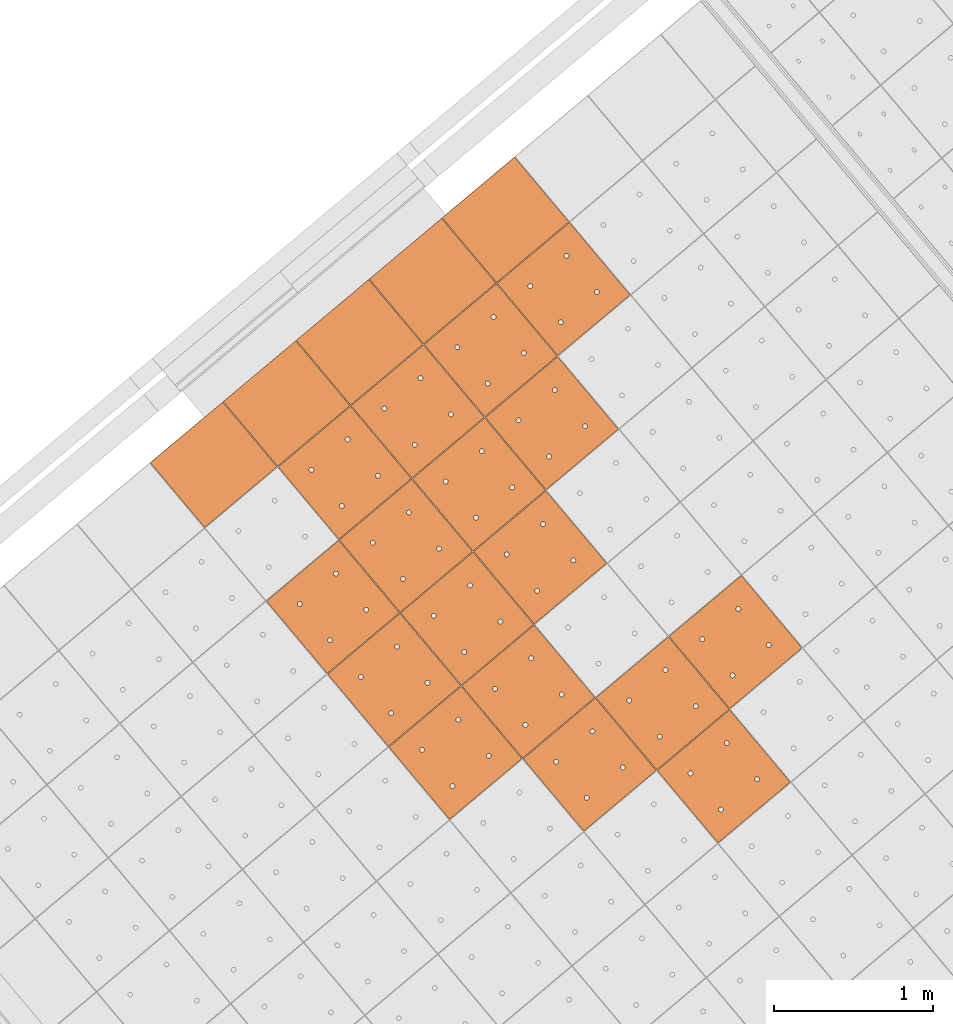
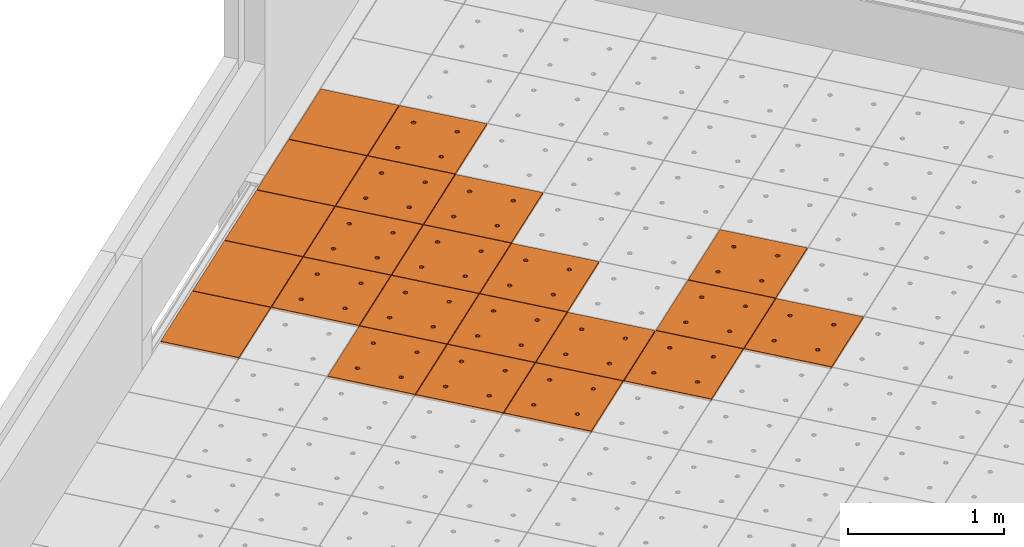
# One storey, part 156 of 338: 22 proxies, 1 element without a shape of its own.
"""IFC2X3 building model written with IfcOpenShell, lengths in millimetres."""

from ifc_helpers import new_model, entity, si_unit, converted_unit, derived_unit, money_unit, direction, frame, origin_with_axes, place, context, subcontext, project, spatial, faceted_brep, source, transform, mapped, material, type_object, type_shapes, element, aggregate, save


model = new_model("IFC2X3")

# Units and contexts
model_context = context("Model", 3, precision=0.01, world=origin_with_axes(), true_north=direction((0.0, 1.0)))
plan_context = context("Plan", 3, precision=0.01, world=origin_with_axes(), true_north=direction((0.0, 1.0)))
body_context = subcontext(model_context, "Body", "Model", "MODEL_VIEW")
ifc_project = project(units=[si_unit("LENGTHUNIT", "METRE", prefix="MILLI"), si_unit("AREAUNIT", "SQUARE_METRE"), si_unit("VOLUMEUNIT", "CUBIC_METRE"), converted_unit("PLANEANGLEUNIT", "DEGREE", entity("IfcPlaneAngleMeasure", 0.0174532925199), si_unit("PLANEANGLEUNIT", "RADIAN"), dimensions=[0, 0, 0, 0, 0, 0, 0]), money_unit("EUR"), converted_unit("TIMEUNIT", "Year", entity("IfcTimeMeasure", 31556926.0), si_unit("TIMEUNIT", "SECOND"), dimensions=[0, 0, 1, 0, 0, 0, 0]), si_unit("MASSUNIT", "GRAM", prefix="KILO"), si_unit("THERMODYNAMICTEMPERATUREUNIT", "DEGREE_CELSIUS"), si_unit("LUMINOUSINTENSITYUNIT", "LUMEN"), si_unit("ENERGYUNIT", "JOULE", prefix="MEGA"), derived_unit("THERMALCONDUCTANCEUNIT", [(si_unit("POWERUNIT", "WATT"), 1), (si_unit("LENGTHUNIT", "METRE"), -1), (si_unit("THERMODYNAMICTEMPERATUREUNIT", "KELVIN"), -1)]), derived_unit("SPECIFICHEATCAPACITYUNIT", [(si_unit("ENERGYUNIT", "JOULE"), 1), (si_unit("MASSUNIT", "GRAM", prefix="KILO"), -1), (si_unit("THERMODYNAMICTEMPERATUREUNIT", "KELVIN"), -1)]), derived_unit("MASSDENSITYUNIT", [(si_unit("MASSUNIT", "GRAM", prefix="KILO"), 1), (si_unit("VOLUMEUNIT", "CUBIC_METRE"), -1)])], contexts=[model_context, plan_context])

# Site, building, storey
site_placement = place(None, origin_with_axes())
site = spatial("IfcSite", under=ifc_project, at=site_placement, Name="Fortuinstraat Woensdrecht", CompositionType="ELEMENT")
building_placement = place(site_placement, origin_with_axes())
building = spatial("IfcBuilding", under=site, at=building_placement, Name="IKC Fortuna", CompositionType="ELEMENT")
storey_placement = place(building_placement, origin_with_axes())
storey = spatial("IfcBuildingStorey", under=building, at=storey_placement, Name="00 begane grond", CompositionType="ELEMENT", Elevation=0.0)

# Covering, proxies
covering_type = type_object("IfcCoveringType", Name="Curtain Wall Type", PredefinedType="CEILING")
covering_placement = place(storey_placement, frame((9775.85169731, -1002.28242867, 4660.0), z_axis=(0.0, 0.0, 1.0), x_axis=(1.0, 0.0, 0.0)))
covering = element("IfcCovering", 1, at=covering_placement, inside=storey, type_object=covering_type, Name="45_Plafondafwerking_P01", PredefinedType="CEILING")
ifc_material = material(Name="Gipsplaat")
building_element_proxy_type_1 = type_object("IfcBuildingElementProxyType", Name="Main Panel 600 x 600 x 20", PredefinedType="NOTDEFINED")
shared_shape_1 = source(origin_with_axes(), body_context, "Body", "Brep", [
    faceted_brep([(2.49999999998, 2.49999999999, -10.0), (300.0, 2.49999999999, -10.0), (300.0, 2.49999999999, 10.0), (2.49999999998, 2.49999999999, 10.0), (2.49999999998, 300.0, -10.0), (2.49999999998, 597.5, -10.0), (300.0, 597.5, -10.0), (597.5, 597.5, -10.0), (597.5, 300.0, -10.0), (597.5, 2.49999999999, -10.0), (166.25, 450.06232995, -10.0), (165.79423259, 452.64711538, -10.0), (164.896546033, 455.11348892, -10.0), (163.58421608, 457.38651108, -10.0), (161.897117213, 459.39711721, -10.0), (159.886511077, 461.08421608, -10.0), (157.613488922, 462.39654603, -10.0), (155.147115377, 463.29423259, -10.0), (152.562329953, 463.75, -10.0), (149.937670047, 463.75, -10.0), (147.352884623, 463.29423259, -10.0), (144.886511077, 462.39654603, -10.0), (142.613488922, 461.08421608, -10.0), (140.602882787, 459.39711721, -10.0), (138.91578392, 457.38651108, -10.0), (137.603453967, 455.11348892, -10.0), (136.705767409, 452.64711538, -10.0), (136.25, 450.06232995, -10.0), (136.25, 448.75, -10.0), (136.25, 447.43767005, -10.0), (136.705767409, 444.85288462, -10.0), (137.603453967, 442.38651108, -10.0), (138.91578392, 440.11348892, -10.0), (140.602882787, 438.10288279, -10.0), (142.613488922, 436.41578392, -10.0), (144.886511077, 435.10345397, -10.0), (147.352884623, 434.20576741, -10.0), (149.937670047, 433.75, -10.0), (152.562329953, 433.75, -10.0), (155.147115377, 434.20576741, -10.0), (157.613488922, 435.10345397, -10.0), (159.886511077, 436.41578392, -10.0), (161.897117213, 438.10288279, -10.0), (163.58421608, 440.11348892, -10.0), (164.896546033, 442.38651108, -10.0), (165.79423259, 444.85288462, -10.0), (166.25, 447.43767005, -10.0), (463.75, 450.06232995, -10.0), (463.29423259, 452.64711538, -10.0), (462.396546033, 455.11348892, -10.0), (461.08421608, 457.38651108, -10.0), (459.397117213, 459.39711721, -10.0), (457.386511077, 461.08421608, -10.0), (455.113488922, 462.39654603, -10.0), (452.647115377, 463.29423259, -10.0), (450.062329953, 463.75, -10.0), (447.437670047, 463.75, -10.0), (444.852884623, 463.29423259, -10.0), (442.386511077, 462.39654603, -10.0), (440.113488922, 461.08421608, -10.0), (438.102882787, 459.39711721, -10.0), (436.41578392, 457.38651108, -10.0), (435.103453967, 455.11348892, -10.0), (434.205767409, 452.64711538, -10.0), (433.75, 450.06232995, -10.0), (433.75, 448.75, -10.0), (433.75, 447.43767005, -10.0), (434.205767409, 444.85288462, -10.0), (435.103453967, 442.38651108, -10.0), (436.41578392, 440.11348892, -10.0), (438.102882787, 438.10288279, -10.0), (440.113488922, 436.41578392, -10.0), (442.386511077, 435.10345397, -10.0), (444.852884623, 434.20576741, -10.0), (447.437670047, 433.75, -10.0), (450.062329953, 433.75, -10.0), (452.647115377, 434.20576741, -10.0), (455.113488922, 435.10345397, -10.0), (457.386511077, 436.41578392, -10.0), (459.397117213, 438.10288279, -10.0), (461.08421608, 440.11348892, -10.0), (462.396546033, 442.38651108, -10.0), (463.29423259, 444.85288462, -10.0), (463.75, 447.43767005, -10.0), (463.75, 152.56232995, -10.0), (463.29423259, 155.14711538, -10.0), (462.396546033, 157.61348892, -10.0), (461.08421608, 159.88651108, -10.0), (459.397117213, 161.89711721, -10.0), (457.386511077, 163.58421608, -10.0), (455.113488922, 164.89654603, -10.0), (452.647115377, 165.79423259, -10.0), (450.062329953, 166.25, -10.0), (447.437670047, 166.25, -10.0), (444.852884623, 165.79423259, -10.0), (442.386511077, 164.89654603, -10.0), (440.113488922, 163.58421608, -10.0), (438.102882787, 161.89711721, -10.0), (436.41578392, 159.88651108, -10.0), (435.103453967, 157.61348892, -10.0), (434.205767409, 155.14711538, -10.0), (433.75, 152.56232995, -10.0), (433.75, 151.25, -10.0), (433.75, 149.93767005, -10.0), (434.205767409, 147.35288462, -10.0), (435.103453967, 144.88651108, -10.0), (436.41578392, 142.61348892, -10.0), (438.102882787, 140.60288279, -10.0), (440.113488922, 138.91578392, -10.0), (442.386511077, 137.60345397, -10.0), (444.852884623, 136.70576741, -10.0), (447.437670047, 136.25, -10.0), (450.062329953, 136.25, -10.0), (452.647115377, 136.70576741, -10.0), (455.113488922, 137.60345397, -10.0), (457.386511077, 138.91578392, -10.0), (459.397117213, 140.60288279, -10.0), (461.08421608, 142.61348892, -10.0), (462.396546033, 144.88651108, -10.0), (463.29423259, 147.35288462, -10.0), (463.75, 149.93767005, -10.0), (166.25, 152.56232995, -10.0), (165.79423259, 155.14711538, -10.0), (164.896546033, 157.61348892, -10.0), (163.58421608, 159.88651108, -10.0), (161.897117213, 161.89711721, -10.0), (159.886511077, 163.58421608, -10.0), (157.613488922, 164.89654603, -10.0), (155.147115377, 165.79423259, -10.0), (152.562329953, 166.25, -10.0), (149.937670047, 166.25, -10.0), (147.352884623, 165.79423259, -10.0), (144.886511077, 164.89654603, -10.0), (142.613488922, 163.58421608, -10.0), (140.602882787, 161.89711721, -10.0), (138.91578392, 159.88651108, -10.0), (137.603453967, 157.61348892, -10.0), (136.705767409, 155.14711538, -10.0), (136.25, 152.56232995, -10.0), (136.25, 151.25, -10.0), (136.25, 149.93767005, -10.0), (136.705767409, 147.35288462, -10.0), (137.603453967, 144.88651108, -10.0), (138.91578392, 142.61348892, -10.0), (140.602882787, 140.60288279, -10.0), (142.613488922, 138.91578392, -10.0), (144.886511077, 137.60345397, -10.0), (147.352884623, 136.70576741, -10.0), (149.937670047, 136.25, -10.0), (152.562329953, 136.25, -10.0), (155.147115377, 136.70576741, -10.0), (157.613488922, 137.60345397, -10.0), (159.886511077, 138.91578392, -10.0), (161.897117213, 140.60288279, -10.0), (163.58421608, 142.61348892, -10.0), (164.896546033, 144.88651108, -10.0), (165.79423259, 147.35288462, -10.0), (166.25, 149.93767005, -10.0), (597.5, 2.49999999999, 10.0), (597.5, 300.0, 10.0), (597.5, 597.5, 10.0), (300.0, 597.5, 10.0), (2.49999999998, 597.5, 10.0), (2.49999999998, 300.0, 10.0), (166.25, 450.06232995, 10.0), (166.25, 447.43767005, 10.0), (165.79423259, 444.85288462, 10.0), (164.896546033, 442.38651108, 10.0), (163.58421608, 440.11348892, 10.0), (161.897117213, 438.10288279, 10.0), (159.886511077, 436.41578392, 10.0), (157.613488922, 435.10345397, 10.0), (155.147115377, 434.20576741, 10.0), (152.562329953, 433.75, 10.0), (149.937670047, 433.75, 10.0), (147.352884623, 434.20576741, 10.0), (144.886511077, 435.10345397, 10.0), (142.613488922, 436.41578392, 10.0), (140.602882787, 438.10288279, 10.0), (138.91578392, 440.11348892, 10.0), (137.603453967, 442.38651108, 10.0), (136.705767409, 444.85288462, 10.0), (136.25, 447.43767005, 10.0), (136.25, 448.75, 10.0), (136.25, 450.06232995, 10.0), (136.705767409, 452.64711538, 10.0), (137.603453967, 455.11348892, 10.0), (138.91578392, 457.38651108, 10.0), (140.602882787, 459.39711721, 10.0), (142.613488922, 461.08421608, 10.0), (144.886511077, 462.39654603, 10.0), (147.352884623, 463.29423259, 10.0), (149.937670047, 463.75, 10.0), (152.562329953, 463.75, 10.0), (155.147115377, 463.29423259, 10.0), (157.613488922, 462.39654603, 10.0), (159.886511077, 461.08421608, 10.0), (161.897117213, 459.39711721, 10.0), (163.58421608, 457.38651108, 10.0), (164.896546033, 455.11348892, 10.0), (165.79423259, 452.64711538, 10.0), (463.75, 450.06232995, 10.0), (463.75, 447.43767005, 10.0), (463.29423259, 444.85288462, 10.0), (462.396546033, 442.38651108, 10.0), (461.08421608, 440.11348892, 10.0), (459.397117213, 438.10288279, 10.0), (457.386511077, 436.41578392, 10.0), (455.113488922, 435.10345397, 10.0), (452.647115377, 434.20576741, 10.0), (450.062329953, 433.75, 10.0), (447.437670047, 433.75, 10.0), (444.852884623, 434.20576741, 10.0), (442.386511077, 435.10345397, 10.0), (440.113488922, 436.41578392, 10.0), (438.102882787, 438.10288279, 10.0), (436.41578392, 440.11348892, 10.0), (435.103453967, 442.38651108, 10.0), (434.205767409, 444.85288462, 10.0), (433.75, 447.43767005, 10.0), (433.75, 448.75, 10.0), (433.75, 450.06232995, 10.0), (434.205767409, 452.64711538, 10.0), (435.103453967, 455.11348892, 10.0), (436.41578392, 457.38651108, 10.0), (438.102882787, 459.39711721, 10.0), (440.113488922, 461.08421608, 10.0), (442.386511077, 462.39654603, 10.0), (444.852884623, 463.29423259, 10.0), (447.437670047, 463.75, 10.0), (450.062329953, 463.75, 10.0), (452.647115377, 463.29423259, 10.0), (455.113488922, 462.39654603, 10.0), (457.386511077, 461.08421608, 10.0), (459.397117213, 459.39711721, 10.0), (461.08421608, 457.38651108, 10.0), (462.396546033, 455.11348892, 10.0), (463.29423259, 452.64711538, 10.0), (463.75, 152.56232995, 10.0), (463.75, 149.93767005, 10.0), (463.29423259, 147.35288462, 10.0), (462.396546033, 144.88651108, 10.0), (461.08421608, 142.61348892, 10.0), (459.397117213, 140.60288279, 10.0), (457.386511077, 138.91578392, 10.0), (455.113488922, 137.60345397, 10.0), (452.647115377, 136.70576741, 10.0), (450.062329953, 136.25, 10.0), (447.437670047, 136.25, 10.0), (444.852884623, 136.70576741, 10.0), (442.386511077, 137.60345397, 10.0), (440.113488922, 138.91578392, 10.0), (438.102882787, 140.60288279, 10.0), (436.41578392, 142.61348892, 10.0), (435.103453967, 144.88651108, 10.0), (434.205767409, 147.35288462, 10.0), (433.75, 149.93767005, 10.0), (433.75, 151.25, 10.0), (433.75, 152.56232995, 10.0), (434.205767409, 155.14711538, 10.0), (435.103453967, 157.61348892, 10.0), (436.41578392, 159.88651108, 10.0), (438.102882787, 161.89711721, 10.0), (440.113488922, 163.58421608, 10.0), (442.386511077, 164.89654603, 10.0), (444.852884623, 165.79423259, 10.0), (447.437670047, 166.25, 10.0), (450.062329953, 166.25, 10.0), (452.647115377, 165.79423259, 10.0), (455.113488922, 164.89654603, 10.0), (457.386511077, 163.58421608, 10.0), (459.397117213, 161.89711721, 10.0), (461.08421608, 159.88651108, 10.0), (462.396546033, 157.61348892, 10.0), (463.29423259, 155.14711538, 10.0), (166.25, 152.56232995, 10.0), (166.25, 149.93767005, 10.0), (165.79423259, 147.35288462, 10.0), (164.896546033, 144.88651108, 10.0), (163.58421608, 142.61348892, 10.0), (161.897117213, 140.60288279, 10.0), (159.886511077, 138.91578392, 10.0), (157.613488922, 137.60345397, 10.0), (155.147115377, 136.70576741, 10.0), (152.562329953, 136.25, 10.0), (149.937670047, 136.25, 10.0), (147.352884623, 136.70576741, 10.0), (144.886511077, 137.60345397, 10.0), (142.613488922, 138.91578392, 10.0), (140.602882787, 140.60288279, 10.0), (138.91578392, 142.61348892, 10.0), (137.603453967, 144.88651108, 10.0), (136.705767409, 147.35288462, 10.0), (136.25, 149.93767005, 10.0), (136.25, 151.25, 10.0), (136.25, 152.56232995, 10.0), (136.705767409, 155.14711538, 10.0), (137.603453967, 157.61348892, 10.0), (138.91578392, 159.88651108, 10.0), (140.602882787, 161.89711721, 10.0), (142.613488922, 163.58421608, 10.0), (144.886511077, 164.89654603, 10.0), (147.352884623, 165.79423259, 10.0), (149.937670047, 166.25, 10.0), (152.562329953, 166.25, 10.0), (155.147115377, 165.79423259, 10.0), (157.613488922, 164.89654603, 10.0), (159.886511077, 163.58421608, 10.0), (161.897117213, 161.89711721, 10.0), (163.58421608, 159.88651108, 10.0), (164.896546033, 157.61348892, 10.0), (165.79423259, 155.14711538, 10.0)], [[[0, 1, 2, 3]], [[0, 4, 5, 6, 7, 8, 9, 1], [10, 11, 12, 13, 14, 15, 16, 17, 18, 19, 20, 21, 22, 23, 24, 25, 26, 27, 28, 29, 30, 31, 32, 33, 34, 35, 36, 37, 38, 39, 40, 41, 42, 43, 44, 45, 46], [47, 48, 49, 50, 51, 52, 53, 54, 55, 56, 57, 58, 59, 60, 61, 62, 63, 64, 65, 66, 67, 68, 69, 70, 71, 72, 73, 74, 75, 76, 77, 78, 79, 80, 81, 82, 83], [84, 85, 86, 87, 88, 89, 90, 91, 92, 93, 94, 95, 96, 97, 98, 99, 100, 101, 102, 103, 104, 105, 106, 107, 108, 109, 110, 111, 112, 113, 114, 115, 116, 117, 118, 119, 120], [121, 122, 123, 124, 125, 126, 127, 128, 129, 130, 131, 132, 133, 134, 135, 136, 137, 138, 139, 140, 141, 142, 143, 144, 145, 146, 147, 148, 149, 150, 151, 152, 153, 154, 155, 156, 157]], [[1, 9, 158, 2]], [[3, 2, 158, 159, 160, 161, 162, 163], [164, 165, 166, 167, 168, 169, 170, 171, 172, 173, 174, 175, 176, 177, 178, 179, 180, 181, 182, 183, 184, 185, 186, 187, 188, 189, 190, 191, 192, 193, 194, 195, 196, 197, 198, 199, 200], [201, 202, 203, 204, 205, 206, 207, 208, 209, 210, 211, 212, 213, 214, 215, 216, 217, 218, 219, 220, 221, 222, 223, 224, 225, 226, 227, 228, 229, 230, 231, 232, 233, 234, 235, 236, 237], [238, 239, 240, 241, 242, 243, 244, 245, 246, 247, 248, 249, 250, 251, 252, 253, 254, 255, 256, 257, 258, 259, 260, 261, 262, 263, 264, 265, 266, 267, 268, 269, 270, 271, 272, 273, 274], [275, 276, 277, 278, 279, 280, 281, 282, 283, 284, 285, 286, 287, 288, 289, 290, 291, 292, 293, 294, 295, 296, 297, 298, 299, 300, 301, 302, 303, 304, 305, 306, 307, 308, 309, 310, 311]], [[4, 0, 3, 163]], [[5, 4, 163, 162]], [[6, 5, 162, 161]], [[7, 6, 161, 160]], [[8, 7, 160, 159]], [[9, 8, 159, 158]], [[11, 10, 164, 200]], [[12, 11, 200, 199]], [[13, 12, 199, 198]], [[14, 13, 198, 197]], [[15, 14, 197, 196]], [[16, 15, 196, 195]], [[17, 16, 195, 194]], [[18, 17, 194, 193]], [[19, 18, 193, 192]], [[20, 19, 192, 191]], [[21, 20, 191, 190]], [[22, 21, 190, 189]], [[23, 22, 189, 188]], [[24, 23, 188, 187]], [[25, 24, 187, 186]], [[26, 25, 186, 185]], [[27, 26, 185, 184]], [[28, 27, 184, 183]], [[29, 28, 183, 182]], [[30, 29, 182, 181]], [[31, 30, 181, 180]], [[32, 31, 180, 179]], [[33, 32, 179, 178]], [[34, 33, 178, 177]], [[35, 34, 177, 176]], [[36, 35, 176, 175]], [[37, 36, 175, 174]], [[38, 37, 174, 173]], [[39, 38, 173, 172]], [[40, 39, 172, 171]], [[41, 40, 171, 170]], [[42, 41, 170, 169]], [[43, 42, 169, 168]], [[44, 43, 168, 167]], [[45, 44, 167, 166]], [[46, 45, 166, 165]], [[10, 46, 165, 164]], [[48, 47, 201, 237]], [[49, 48, 237, 236]], [[50, 49, 236, 235]], [[51, 50, 235, 234]], [[52, 51, 234, 233]], [[53, 52, 233, 232]], [[54, 53, 232, 231]], [[55, 54, 231, 230]], [[56, 55, 230, 229]], [[57, 56, 229, 228]], [[58, 57, 228, 227]], [[59, 58, 227, 226]], [[60, 59, 226, 225]], [[61, 60, 225, 224]], [[62, 61, 224, 223]], [[63, 62, 223, 222]], [[64, 63, 222, 221]], [[65, 64, 221, 220]], [[66, 65, 220, 219]], [[67, 66, 219, 218]], [[68, 67, 218, 217]], [[69, 68, 217, 216]], [[70, 69, 216, 215]], [[71, 70, 215, 214]], [[72, 71, 214, 213]], [[73, 72, 213, 212]], [[74, 73, 212, 211]], [[75, 74, 211, 210]], [[76, 75, 210, 209]], [[77, 76, 209, 208]], [[78, 77, 208, 207]], [[79, 78, 207, 206]], [[80, 79, 206, 205]], [[81, 80, 205, 204]], [[82, 81, 204, 203]], [[83, 82, 203, 202]], [[47, 83, 202, 201]], [[85, 84, 238, 274]], [[86, 85, 274, 273]], [[87, 86, 273, 272]], [[88, 87, 272, 271]], [[89, 88, 271, 270]], [[90, 89, 270, 269]], [[91, 90, 269, 268]], [[92, 91, 268, 267]], [[93, 92, 267, 266]], [[94, 93, 266, 265]], [[95, 94, 265, 264]], [[96, 95, 264, 263]], [[97, 96, 263, 262]], [[98, 97, 262, 261]], [[99, 98, 261, 260]], [[100, 99, 260, 259]], [[101, 100, 259, 258]], [[102, 101, 258, 257]], [[103, 102, 257, 256]], [[104, 103, 256, 255]], [[105, 104, 255, 254]], [[106, 105, 254, 253]], [[107, 106, 253, 252]], [[108, 107, 252, 251]], [[109, 108, 251, 250]], [[110, 109, 250, 249]], [[111, 110, 249, 248]], [[112, 111, 248, 247]], [[113, 112, 247, 246]], [[114, 113, 246, 245]], [[115, 114, 245, 244]], [[116, 115, 244, 243]], [[117, 116, 243, 242]], [[118, 117, 242, 241]], [[119, 118, 241, 240]], [[120, 119, 240, 239]], [[84, 120, 239, 238]], [[122, 121, 275, 311]], [[123, 122, 311, 310]], [[124, 123, 310, 309]], [[125, 124, 309, 308]], [[126, 125, 308, 307]], [[127, 126, 307, 306]], [[128, 127, 306, 305]], [[129, 128, 305, 304]], [[130, 129, 304, 303]], [[131, 130, 303, 302]], [[132, 131, 302, 301]], [[133, 132, 301, 300]], [[134, 133, 300, 299]], [[135, 134, 299, 298]], [[136, 135, 298, 297]], [[137, 136, 297, 296]], [[138, 137, 296, 295]], [[139, 138, 295, 294]], [[140, 139, 294, 293]], [[141, 140, 293, 292]], [[142, 141, 292, 291]], [[143, 142, 291, 290]], [[144, 143, 290, 289]], [[145, 144, 289, 288]], [[146, 145, 288, 287]], [[147, 146, 287, 286]], [[148, 147, 286, 285]], [[149, 148, 285, 284]], [[150, 149, 284, 283]], [[151, 150, 283, 282]], [[152, 151, 282, 281]], [[153, 152, 281, 280]], [[154, 153, 280, 279]], [[155, 154, 279, 278]], [[156, 155, 278, 277]], [[157, 156, 277, 276]], [[121, 157, 276, 275]]]),
])
type_shapes(building_element_proxy_type_1, [shared_shape_1])
proxy_1_placement = place(covering_placement, frame((-4849.93386069, 2979.62108134, 0.0), z_axis=(0.0, 0.0, 1.0), x_axis=(1.0, 0.0, 0.0)))
proxy_1 = element("IfcBuildingElementProxy", 2, at=proxy_1_placement, type_object=building_element_proxy_type_1, material=ifc_material, Name="__600x622 Rockfon Krios", context=body_context, shape_type="MappedRepresentation", body=[
    mapped(shared_shape_1, transform((36.9769427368, 422.649625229, 0.0), x_axis=(-0.766044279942, -0.642787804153, 0.0), y_axis=(0.642787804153, -0.766044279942, 0.0), z_axis=(0.0, 0.0, 1.0))),
])
proxy_2_placement = place(covering_placement, frame((-5695.23311115, 3053.57496681, 0.0), z_axis=(0.0, 0.0, 1.0), x_axis=(1.0, 0.0, 0.0)))
proxy_2 = element("IfcBuildingElementProxy", 3, at=proxy_2_placement, type_object=building_element_proxy_type_1, material=ifc_material, Name="__600x625 Rockfon Krios", context=body_context, shape_type="MappedRepresentation", body=[
    mapped(shared_shape_1, transform((36.9769427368, 422.649625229, 0.0), x_axis=(-0.766044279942, -0.642787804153, 0.0), y_axis=(0.642787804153, -0.766044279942, 0.0), z_axis=(0.0, 0.0, 1.0))),
])
proxy_3_placement = place(covering_placement, frame((-5383.51431413, 1748.64914839, 1.1812772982e-10), z_axis=(0.0, 0.0, 1.0), x_axis=(1.0, 0.0, 0.0)))
proxy_3 = element("IfcBuildingElementProxy", 4, at=proxy_3_placement, type_object=building_element_proxy_type_1, material=ifc_material, Name="__600x626 Rockfon Krios", context=body_context, shape_type="MappedRepresentation", body=[
    mapped(shared_shape_1, transform((36.9769427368, 422.649625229, 0.0), x_axis=(-0.766044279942, -0.642787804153, 0.0), y_axis=(0.642787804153, -0.766044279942, 0.0), z_axis=(0.0, 0.0, 1.0))),
])
proxy_4_placement = place(covering_placement, frame((-6228.81356459, 1822.60303386, 1.37667655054e-10), z_axis=(0.0, 0.0, 1.0), x_axis=(1.0, 0.0, 0.0)))
proxy_4 = element("IfcBuildingElementProxy", 5, at=proxy_4_placement, type_object=building_element_proxy_type_1, material=ifc_material, Name="__600x628 Rockfon Krios", context=body_context, shape_type="MappedRepresentation", body=[
    mapped(shared_shape_1, transform((36.9769427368, 422.649625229, 0.0), x_axis=(-0.766044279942, -0.642787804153, 0.0), y_axis=(0.642787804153, -0.766044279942, 0.0), z_axis=(0.0, 0.0, 1.0))),
])
proxy_5_placement = place(covering_placement, frame((-6154.85967911, 2667.90228432, 1.1812772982e-10), z_axis=(0.0, 0.0, 1.0), x_axis=(1.0, 0.0, 0.0)))
proxy_5 = element("IfcBuildingElementProxy", 6, at=proxy_5_placement, type_object=building_element_proxy_type_1, material=ifc_material, Name="__600x637 Rockfon Krios", context=body_context, shape_type="MappedRepresentation", body=[
    mapped(shared_shape_1, transform((36.9769427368, 422.649625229, 0.0), x_axis=(-0.766044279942, -0.642787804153, 0.0), y_axis=(0.642787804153, -0.766044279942, 0.0), z_axis=(0.0, 0.0, 1.0))),
])
proxy_6_placement = place(covering_placement, frame((-5309.56042865, 2593.94839884, 0.0), z_axis=(0.0, 0.0, 1.0), x_axis=(1.0, 0.0, 0.0)))
proxy_6 = element("IfcBuildingElementProxy", 7, at=proxy_6_placement, type_object=building_element_proxy_type_1, material=ifc_material, Name="__600x642 Rockfon Krios", context=body_context, shape_type="MappedRepresentation", body=[
    mapped(shared_shape_1, transform((36.9769427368, 422.649625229, 0.0), x_axis=(-0.766044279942, -0.642787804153, 0.0), y_axis=(0.642787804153, -0.766044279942, 0.0), z_axis=(0.0, 0.0, 1.0))),
])
proxy_7_placement = place(covering_placement, frame((-4775.97997522, 3824.92033179, 0.0), z_axis=(0.0, 0.0, 1.0), x_axis=(1.0, 0.0, 0.0)))
proxy_7 = element("IfcBuildingElementProxy", 8, at=proxy_7_placement, type_object=building_element_proxy_type_1, material=ifc_material, Name="__600x647 Rockfon Krios", context=body_context, shape_type="MappedRepresentation", body=[
    mapped(shared_shape_1, transform((36.9769427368, 422.649625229, 0.0), x_axis=(-0.766044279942, -0.642787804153, 0.0), y_axis=(0.642787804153, -0.766044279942, 0.0), z_axis=(0.0, 0.0, 1.0))),
])
proxy_8_placement = place(covering_placement, frame((-5769.18699662, 2208.27571635, 1.1812772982e-10), z_axis=(0.0, 0.0, 1.0), x_axis=(1.0, 0.0, 0.0)))
proxy_8 = element("IfcBuildingElementProxy", 9, at=proxy_8_placement, type_object=building_element_proxy_type_1, material=ifc_material, Name="__600x650 Rockfon Krios", context=body_context, shape_type="MappedRepresentation", body=[
    mapped(shared_shape_1, transform((36.9769427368, 422.649625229, 0.0), x_axis=(-0.766044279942, -0.642787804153, 0.0), y_axis=(0.642787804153, -0.766044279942, 0.0), z_axis=(0.0, 0.0, 1.0))),
])
proxy_9_placement = place(covering_placement, frame((-5235.60654318, 3439.2476493, 0.0), z_axis=(0.0, 0.0, 1.0), x_axis=(1.0, 0.0, 0.0)))
proxy_9 = element("IfcBuildingElementProxy", 10, at=proxy_9_placement, type_object=building_element_proxy_type_1, material=ifc_material, Name="__600x651 Rockfon Krios", context=body_context, shape_type="MappedRepresentation", body=[
    mapped(shared_shape_1, transform((36.9769427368, 422.649625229, 0.0), x_axis=(-0.766044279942, -0.642787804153, 0.0), y_axis=(0.642787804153, -0.766044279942, 0.0), z_axis=(0.0, 0.0, 1.0))),
])
proxy_10_placement = place(covering_placement, frame((-5843.14088209, 1362.97646589, 1.37667655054e-10), z_axis=(0.0, 0.0, 1.0), x_axis=(1.0, 0.0, 0.0)))
proxy_10 = element("IfcBuildingElementProxy", 11, at=proxy_10_placement, type_object=building_element_proxy_type_1, material=ifc_material, Name="__600x682 Rockfon Krios", context=body_context, shape_type="MappedRepresentation", body=[
    mapped(shared_shape_1, transform((36.9769427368, 422.649625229, 0.0), x_axis=(-0.766044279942, -0.642787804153, 0.0), y_axis=(0.642787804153, -0.766044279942, 0.0), z_axis=(0.0, 0.0, 1.0))),
])
proxy_11_placement = place(covering_placement, frame((-3692.91581321, 1600.74137744, 0.0), z_axis=(0.0, 0.0, 1.0), x_axis=(1.0, 0.0, 0.0)))
proxy_11 = element("IfcBuildingElementProxy", 12, at=proxy_11_placement, type_object=building_element_proxy_type_1, material=ifc_material, Name="__600x719 Rockfon Krios", context=body_context, shape_type="MappedRepresentation", body=[
    mapped(shared_shape_1, transform((36.9769427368, 422.649625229, 0.0), x_axis=(-0.766044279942, -0.642787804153, 0.0), y_axis=(0.642787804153, -0.766044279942, 0.0), z_axis=(0.0, 0.0, 1.0))),
])
proxy_12_placement = place(covering_placement, frame((-4923.88774616, 2134.32183088, 0.0), z_axis=(0.0, 0.0, 1.0), x_axis=(1.0, 0.0, 0.0)))
proxy_12 = element("IfcBuildingElementProxy", 13, at=proxy_12_placement, type_object=building_element_proxy_type_1, material=ifc_material, Name="__600x726 Rockfon Krios", context=body_context, shape_type="MappedRepresentation", body=[
    mapped(shared_shape_1, transform((36.9769427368, 422.649625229, 0.0), x_axis=(-0.766044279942, -0.642787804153, 0.0), y_axis=(0.642787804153, -0.766044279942, 0.0), z_axis=(0.0, 0.0, 1.0))),
])
proxy_13_placement = place(covering_placement, frame((-4152.54238118, 1215.06869495, 0.0), z_axis=(0.0, 0.0, 1.0), x_axis=(1.0, 0.0, 0.0)))
proxy_13 = element("IfcBuildingElementProxy", 14, at=proxy_13_placement, type_object=building_element_proxy_type_1, material=ifc_material, Name="__600x728 Rockfon Krios", context=body_context, shape_type="MappedRepresentation", body=[
    mapped(shared_shape_1, transform((36.9769427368, 422.649625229, 0.0), x_axis=(-0.766044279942, -0.642787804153, 0.0), y_axis=(0.642787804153, -0.766044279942, 0.0), z_axis=(0.0, 0.0, 1.0))),
])
proxy_14_placement = place(covering_placement, frame((-3766.86969869, 755.442126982, 0.0), z_axis=(0.0, 0.0, 1.0), x_axis=(1.0, 0.0, 0.0)))
proxy_14 = element("IfcBuildingElementProxy", 15, at=proxy_14_placement, type_object=building_element_proxy_type_1, material=ifc_material, Name="__600x729 Rockfon Krios", context=body_context, shape_type="MappedRepresentation", body=[
    mapped(shared_shape_1, transform((36.9769427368, 422.649625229, 0.0), x_axis=(-0.766044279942, -0.642787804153, 0.0), y_axis=(0.642787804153, -0.766044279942, 0.0), z_axis=(0.0, 0.0, 1.0))),
])
proxy_15_placement = place(covering_placement, frame((-4997.84163164, 1289.02258042, 1.1812772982e-10), z_axis=(0.0, 0.0, 1.0), x_axis=(1.0, 0.0, 0.0)))
proxy_15 = element("IfcBuildingElementProxy", 16, at=proxy_15_placement, type_object=building_element_proxy_type_1, material=ifc_material, Name="__600x736 Rockfon Krios", context=body_context, shape_type="MappedRepresentation", body=[
    mapped(shared_shape_1, transform((36.9769427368, 422.649625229, 0.0), x_axis=(-0.766044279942, -0.642787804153, 0.0), y_axis=(0.642787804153, -0.766044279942, 0.0), z_axis=(0.0, 0.0, 1.0))),
])
proxy_16_placement = place(covering_placement, frame((-4612.16894914, 829.396012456, 1.1812772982e-10), z_axis=(0.0, 0.0, 1.0), x_axis=(1.0, 0.0, 0.0)))
proxy_16 = element("IfcBuildingElementProxy", 17, at=proxy_16_placement, type_object=building_element_proxy_type_1, material=ifc_material, Name="__600x737 Rockfon Krios", context=body_context, shape_type="MappedRepresentation", body=[
    mapped(shared_shape_1, transform((36.9769427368, 422.649625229, 0.0), x_axis=(-0.766044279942, -0.642787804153, 0.0), y_axis=(0.642787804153, -0.766044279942, 0.0), z_axis=(0.0, 0.0, 1.0))),
])
proxy_17_placement = place(covering_placement, frame((-5457.4681996, 903.349897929, 1.37667655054e-10), z_axis=(0.0, 0.0, 1.0), x_axis=(1.0, 0.0, 0.0)))
proxy_17 = element("IfcBuildingElementProxy", 18, at=proxy_17_placement, type_object=building_element_proxy_type_1, material=ifc_material, Name="__600x745 Rockfon Krios", context=body_context, shape_type="MappedRepresentation", body=[
    mapped(shared_shape_1, transform((36.9769427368, 422.649625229, 0.0), x_axis=(-0.766044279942, -0.642787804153, 0.0), y_axis=(0.642787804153, -0.766044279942, 0.0), z_axis=(0.0, 0.0, 1.0))),
])
building_element_proxy_type_2 = type_object("IfcBuildingElementProxyType", Name="600 x 538 x 20", PredefinedType="NOTDEFINED")
shared_shape_2 = source(origin_with_axes(), body_context, "Body", "Brep", [
    faceted_brep([(2.50000143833, 64.9091281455, -10.0), (597.499987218, 64.9091323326, -10.0), (597.499987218, 64.9091323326, 10.0), (2.50000143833, 64.9091281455, 10.0), (2.49999424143, 597.500000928, -10.0), (597.500006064, 597.499998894, -10.0), (597.500006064, 597.499998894, 10.0), (2.49999424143, 597.500000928, 10.0)], [[[0, 1, 2, 3]], [[0, 4, 5, 1]], [[1, 5, 6, 2]], [[3, 2, 6, 7]], [[4, 0, 3, 7]], [[5, 4, 7, 6]]]),
])
type_shapes(building_element_proxy_type_2, [shared_shape_2])
proxy_18_placement = place(covering_placement, frame((-6520.4744466, 3103.62477235, 1.1812772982e-10), z_axis=(0.0, 0.0, 1.0), x_axis=(1.0, 0.0, 0.0)))
proxy_18 = element("IfcBuildingElementProxy", 19, at=proxy_18_placement, type_object=building_element_proxy_type_2, material=ifc_material, Name="__600x602 Rockfon Krios", context=body_context, shape_type="MappedRepresentation", body=[
    mapped(shared_shape_2, transform((16.9190277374, 446.553705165, 0.0), x_axis=(-0.766044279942, -0.642787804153, 0.0), y_axis=(0.642787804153, -0.766044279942, 0.0), z_axis=(0.0, 0.0, 1.0))),
])
proxy_19_placement = place(covering_placement, frame((-5601.22131067, 3874.97013733, 0.0), z_axis=(0.0, 0.0, 1.0), x_axis=(1.0, 0.0, 0.0)))
proxy_19 = element("IfcBuildingElementProxy", 20, at=proxy_19_placement, type_object=building_element_proxy_type_2, material=ifc_material, Name="__600x624 Rockfon Krios", context=body_context, shape_type="MappedRepresentation", body=[
    mapped(shared_shape_2, transform((16.9190277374, 446.553705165, 0.0), x_axis=(-0.766044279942, -0.642787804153, 0.0), y_axis=(0.642787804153, -0.766044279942, 0.0), z_axis=(0.0, 0.0, 1.0))),
])
proxy_20_placement = place(covering_placement, frame((-6060.84787864, 3489.29745484, 0.0), z_axis=(0.0, 0.0, 1.0), x_axis=(1.0, 0.0, 0.0)))
proxy_20 = element("IfcBuildingElementProxy", 21, at=proxy_20_placement, type_object=building_element_proxy_type_2, material=ifc_material, Name="__600x627 Rockfon Krios", context=body_context, shape_type="MappedRepresentation", body=[
    mapped(shared_shape_2, transform((16.9190277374, 446.553705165, 0.0), x_axis=(-0.766044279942, -0.642787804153, 0.0), y_axis=(0.642787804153, -0.766044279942, 0.0), z_axis=(0.0, 0.0, 1.0))),
])
proxy_21_placement = place(covering_placement, frame((-5141.59474271, 4260.64281982, 0.0), z_axis=(0.0, 0.0, 1.0), x_axis=(1.0, 0.0, 0.0)))
proxy_21 = element("IfcBuildingElementProxy", 22, at=proxy_21_placement, type_object=building_element_proxy_type_2, material=ifc_material, Name="__600x646 Rockfon Krios", context=body_context, shape_type="MappedRepresentation", body=[
    mapped(shared_shape_2, transform((16.9190277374, 446.553705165, 0.0), x_axis=(-0.766044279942, -0.642787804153, 0.0), y_axis=(0.642787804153, -0.766044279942, 0.0), z_axis=(0.0, 0.0, 1.0))),
])
proxy_22_placement = place(covering_placement, frame((-6980.10101457, 2717.95208985, 1.37667655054e-10), z_axis=(0.0, 0.0, 1.0), x_axis=(1.0, 0.0, 0.0)))
proxy_22 = element("IfcBuildingElementProxy", 23, at=proxy_22_placement, type_object=building_element_proxy_type_2, material=ifc_material, Name="__600x666 Rockfon Krios", context=body_context, shape_type="MappedRepresentation", body=[
    mapped(shared_shape_2, transform((16.9190277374, 446.553705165, 0.0), x_axis=(-0.766044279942, -0.642787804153, 0.0), y_axis=(0.642787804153, -0.766044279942, 0.0), z_axis=(0.0, 0.0, 1.0))),
])
aggregate(covering, [proxy_18, proxy_1, proxy_19, proxy_2, proxy_3, proxy_20, proxy_4, proxy_5, proxy_6, proxy_21, proxy_7, proxy_8, proxy_9, proxy_22, proxy_10, proxy_11, proxy_12, proxy_13, proxy_14, proxy_15, proxy_16, proxy_17])

save(model, "model.ifc")
